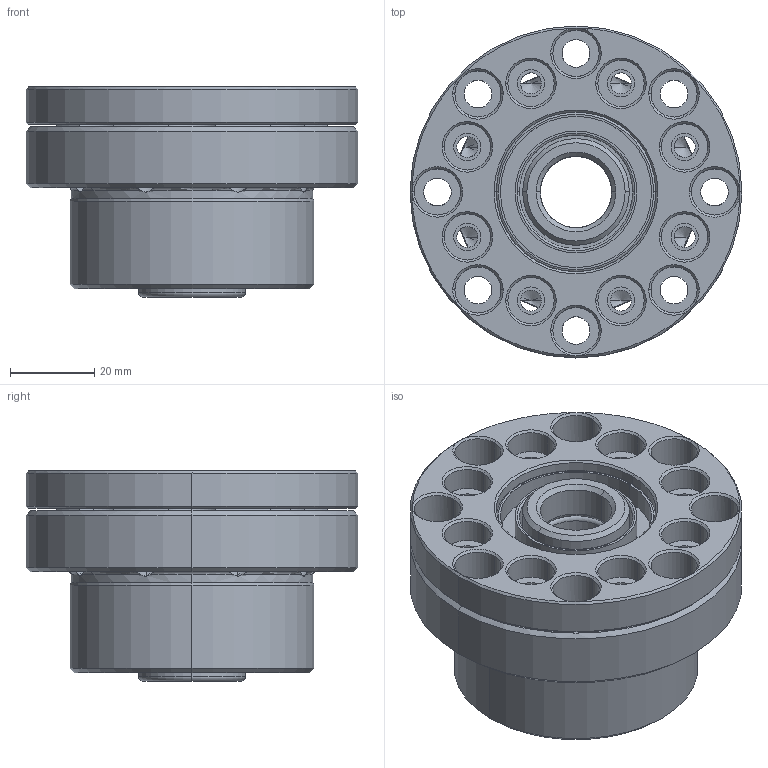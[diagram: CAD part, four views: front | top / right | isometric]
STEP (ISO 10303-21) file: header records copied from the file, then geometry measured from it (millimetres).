
FILE_DESCRIPTION (( 'STEP AP203' ), '1' );
FILE_NAME ('¥Ø¿ýµø·N.STEP', '2010-02-11T06:40:56', ( '' ), ( '' ), 'SwSTEP 2.0', 'SolidWorks 2008', '' );
FILE_SCHEMA (( 'CONFIG_CONTROL_DESIGN' ));
Length unit declared in the file: millimetre
Products named in the file (1): 目錄視意
Bounding box: 79 x 79 x 50 mm (x, y, z)
Volume: 129181.6 mm3; surface area: 73092.9 mm2
Topology: 40 solids, 40 shells, 503 faces, 1342 edges, 827 vertices
Faces by surface type: cylinder 174, cone 145, plane 68, torus 60, sphere 56
Entity records: 15255 total; most frequent: CARTESIAN_POINT 3042, DIRECTION 2850, ORIENTED_EDGE 2368, AXIS2_PLACEMENT_3D 1281, EDGE_CURVE 1184, CIRCLE 777, VERTEX_POINT 743, EDGE_LOOP 575
